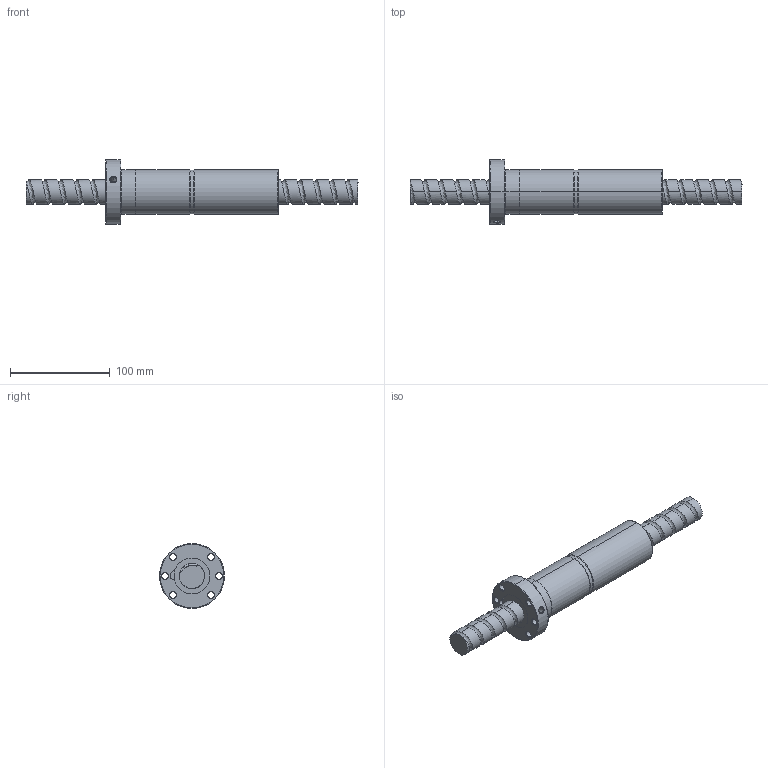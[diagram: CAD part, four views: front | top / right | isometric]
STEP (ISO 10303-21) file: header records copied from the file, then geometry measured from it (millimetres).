
FILE_DESCRIPTION (( 'STEP AP214' ), '1' );
FILE_NAME ('FDDC02516T4-D-A.STEP', '2010-07-07T01:20:39', ( 'XPAUTO' ), ( 'XPAUTO' ), 'SwSTEP 2.0', 'SolidWorks 2007', '' );
FILE_SCHEMA (( 'AUTOMOTIVE_DESIGN' ));
Length unit declared in the file: millimetre
Products named in the file (3): FDDC02516T4-D-A.sldasm-Part-2_預設; FDDC02516T4-D-A; FDDC02516T4-D-A.sldasm-Part-1_預設
Assembly tree (2 placements, depth 2):
  FDDC02516T4-D-A
    FDDC02516T4-D-A.sldasm-Part-1_預設
    FDDC02516T4-D-A.sldasm-Part-2_預設
Bounding box: 333 x 65 x 65 mm (x, y, z)
Volume: 361868 mm3; surface area: 75871.8 mm2
Topology: 2 solids, 2 shells, 140 faces, 350 edges, 219 vertices
Faces by surface type: cylinder 85, cone 24, plane 16, torus 10, bspline 5
Entity records: 26651 total; most frequent: CARTESIAN_POINT 23317, ORIENTED_EDGE 700, DIRECTION 652, EDGE_CURVE 350, AXIS2_PLACEMENT_3D 268, VERTEX_POINT 219, EDGE_LOOP 161, FACE_OUTER_BOUND 140
